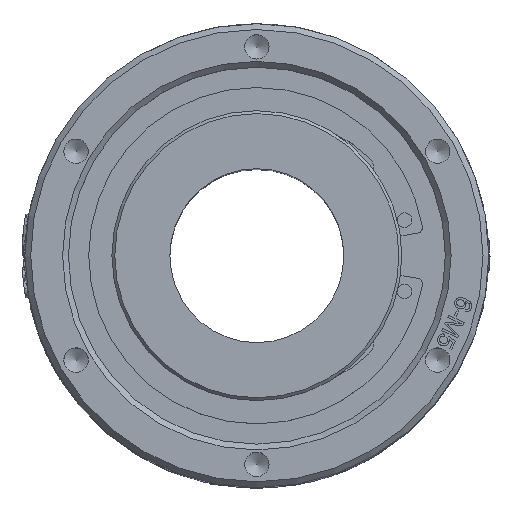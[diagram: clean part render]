
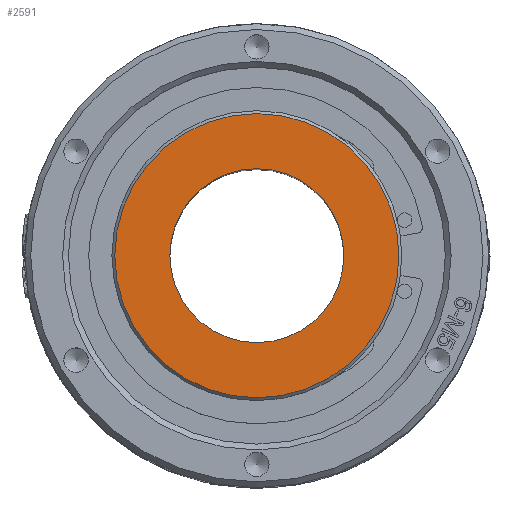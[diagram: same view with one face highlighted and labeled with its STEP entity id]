
A CAD part, top view. The second image highlights one B-rep face of the part: STEP entity #2591.
In plain terms, the highlighted planar face has unit normal (0, 0, 1).
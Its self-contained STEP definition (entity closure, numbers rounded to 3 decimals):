
#502=FACE_BOUND('',#5690,.T.);
#503=FACE_BOUND('',#5691,.T.);
#749=CIRCLE('',#24311,15.);
#768=CIRCLE('',#24335,24.5);
#2591=ADVANCED_FACE('',(#502,#503),#3316,.T.);
#3316=PLANE('',#24336);
#5690=EDGE_LOOP('',(#12363));
#5691=EDGE_LOOP('',(#12364));
#12363=ORIENTED_EDGE('',*,*,#19626,.T.);
#12364=ORIENTED_EDGE('',*,*,#19655,.T.);
#16424=VERTEX_POINT('',#45626);
#16450=VERTEX_POINT('',#45686);
#19626=EDGE_CURVE('',#16424,#16424,#749,.T.);
#19655=EDGE_CURVE('',#16450,#16450,#768,.T.);
#24311=AXIS2_PLACEMENT_3D('',#45625,#26872,#26873);
#24335=AXIS2_PLACEMENT_3D('',#45685,#26930,#26931);
#24336=AXIS2_PLACEMENT_3D('',#45687,#26932,#26933);
#26872=DIRECTION('',(0.,0.,-1.));
#26873=DIRECTION('',(1.,0.,0.));
#26930=DIRECTION('',(0.,0.,1.));
#26931=DIRECTION('',(1.,0.,0.));
#26932=DIRECTION('',(0.,0.,1.));
#26933=DIRECTION('',(1.,0.,0.));
#45625=CARTESIAN_POINT('',(0.,0.,88.5));
#45626=CARTESIAN_POINT('',(15.,0.,88.5));
#45685=CARTESIAN_POINT('',(0.,0.,88.5));
#45686=CARTESIAN_POINT('',(24.5,0.,88.5));
#45687=CARTESIAN_POINT('',(0.,0.,88.5));
